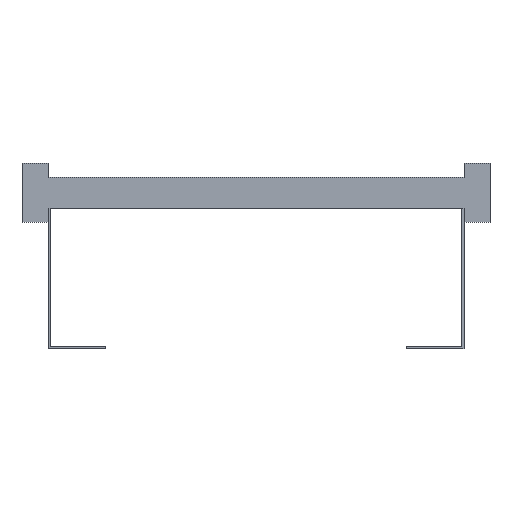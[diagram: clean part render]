
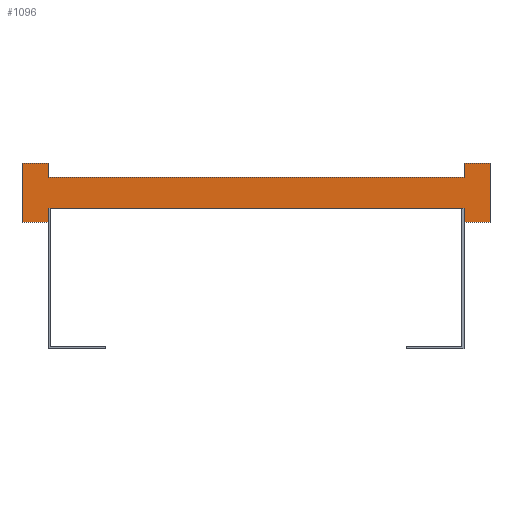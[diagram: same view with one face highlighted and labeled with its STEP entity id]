
A CAD part, front view. The second image highlights one B-rep face of the part: STEP entity #1096.
In plain terms, the highlighted planar face has unit normal (0, -1, 0).
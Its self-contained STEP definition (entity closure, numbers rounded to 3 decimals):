
#113=DIRECTION('',(0.,0.,1.));
#114=VECTOR('',#113,13.5);
#115=CARTESIAN_POINT('',(200.,0.,-28.5));
#116=LINE('',#115,#114);
#117=DIRECTION('',(0.,0.,-1.));
#118=VECTOR('',#117,13.5);
#119=CARTESIAN_POINT('',(-200.,0.,-15.));
#120=LINE('',#119,#118);
#121=DIRECTION('',(-1.,0.,0.));
#122=VECTOR('',#121,25.);
#123=CARTESIAN_POINT('',(-200.,0.,-28.5));
#124=LINE('',#123,#122);
#125=DIRECTION('',(0.,0.,1.));
#126=VECTOR('',#125,57.);
#127=CARTESIAN_POINT('',(-225.,0.,-28.5));
#128=LINE('',#127,#126);
#129=DIRECTION('',(1.,0.,0.));
#130=VECTOR('',#129,25.);
#131=CARTESIAN_POINT('',(-225.,0.,28.5));
#132=LINE('',#131,#130);
#133=DIRECTION('',(0.,0.,-1.));
#134=VECTOR('',#133,13.5);
#135=CARTESIAN_POINT('',(-200.,0.,28.5));
#136=LINE('',#135,#134);
#137=DIRECTION('',(0.,0.,1.));
#138=VECTOR('',#137,13.5);
#139=CARTESIAN_POINT('',(200.,0.,15.));
#140=LINE('',#139,#138);
#141=DIRECTION('',(1.,0.,0.));
#142=VECTOR('',#141,25.);
#143=CARTESIAN_POINT('',(200.,0.,28.5));
#144=LINE('',#143,#142);
#145=DIRECTION('',(0.,0.,-1.));
#146=VECTOR('',#145,57.);
#147=CARTESIAN_POINT('',(225.,0.,28.5));
#148=LINE('',#147,#146);
#149=DIRECTION('',(-1.,0.,0.));
#150=VECTOR('',#149,25.);
#151=CARTESIAN_POINT('',(225.,0.,-28.5));
#152=LINE('',#151,#150);
#817=DIRECTION('',(1.,0.,0.));
#818=VECTOR('',#817,400.);
#819=CARTESIAN_POINT('',(-200.,0.,-15.));
#820=LINE('',#819,#818);
#829=DIRECTION('',(1.,0.,0.));
#830=VECTOR('',#829,400.);
#831=CARTESIAN_POINT('',(-200.,0.,15.));
#832=LINE('',#831,#830);
#833=CARTESIAN_POINT('',(-225.,0.,28.5));
#834=CARTESIAN_POINT('',(-200.,0.,28.5));
#835=VERTEX_POINT('',#833);
#836=VERTEX_POINT('',#834);
#837=CARTESIAN_POINT('',(-200.,0.,-28.5));
#838=CARTESIAN_POINT('',(-225.,0.,-28.5));
#839=VERTEX_POINT('',#837);
#840=VERTEX_POINT('',#838);
#841=CARTESIAN_POINT('',(225.,0.,28.5));
#842=CARTESIAN_POINT('',(225.,0.,-28.5));
#843=VERTEX_POINT('',#841);
#844=VERTEX_POINT('',#842);
#845=CARTESIAN_POINT('',(200.,0.,-28.5));
#846=VERTEX_POINT('',#845);
#847=CARTESIAN_POINT('',(200.,0.,28.5));
#848=VERTEX_POINT('',#847);
#865=CARTESIAN_POINT('',(-200.,0.,-15.));
#867=VERTEX_POINT('',#865);
#869=CARTESIAN_POINT('',(-200.,0.,15.));
#871=VERTEX_POINT('',#869);
#873=CARTESIAN_POINT('',(200.,0.,-15.));
#875=VERTEX_POINT('',#873);
#877=CARTESIAN_POINT('',(200.,0.,15.));
#879=VERTEX_POINT('',#877);
#1065=CARTESIAN_POINT('',(0.,0.,0.));
#1066=DIRECTION('',(0.,1.,0.));
#1067=DIRECTION('',(1.,0.,0.));
#1068=AXIS2_PLACEMENT_3D('',#1065,#1066,#1067);
#1069=PLANE('',#1068);
#1071=ORIENTED_EDGE('',*,*,#1070,.T.);
#1073=ORIENTED_EDGE('',*,*,#1072,.F.);
#1075=ORIENTED_EDGE('',*,*,#1074,.T.);
#1077=ORIENTED_EDGE('',*,*,#1076,.T.);
#1079=ORIENTED_EDGE('',*,*,#1078,.T.);
#1081=ORIENTED_EDGE('',*,*,#1080,.T.);
#1083=ORIENTED_EDGE('',*,*,#1082,.T.);
#1085=ORIENTED_EDGE('',*,*,#1084,.T.);
#1087=ORIENTED_EDGE('',*,*,#1086,.T.);
#1089=ORIENTED_EDGE('',*,*,#1088,.T.);
#1091=ORIENTED_EDGE('',*,*,#1090,.T.);
#1093=ORIENTED_EDGE('',*,*,#1092,.T.);
#1094=EDGE_LOOP('',(#1071,#1073,#1075,#1077,#1079,#1081,#1083,#1085,#1087,#1089,
#1091,#1093));
#1095=FACE_OUTER_BOUND('',#1094,.F.);
#1070=EDGE_CURVE('',#846,#875,#116,.T.);
#1072=EDGE_CURVE('',#867,#875,#820,.T.);
#1074=EDGE_CURVE('',#867,#839,#120,.T.);
#1076=EDGE_CURVE('',#839,#840,#124,.T.);
#1078=EDGE_CURVE('',#840,#835,#128,.T.);
#1080=EDGE_CURVE('',#835,#836,#132,.T.);
#1082=EDGE_CURVE('',#836,#871,#136,.T.);
#1084=EDGE_CURVE('',#871,#879,#832,.T.);
#1086=EDGE_CURVE('',#879,#848,#140,.T.);
#1088=EDGE_CURVE('',#848,#843,#144,.T.);
#1090=EDGE_CURVE('',#843,#844,#148,.T.);
#1092=EDGE_CURVE('',#844,#846,#152,.T.);
#1096=ADVANCED_FACE('',(#1095),#1069,.F.);
